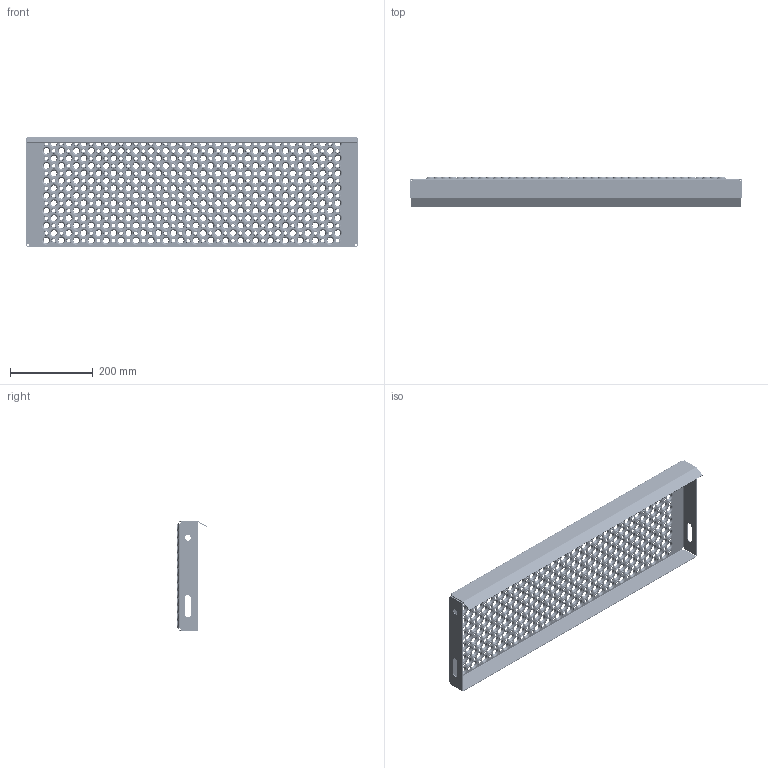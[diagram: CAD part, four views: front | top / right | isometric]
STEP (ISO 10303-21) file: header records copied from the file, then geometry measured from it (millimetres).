
FILE_DESCRIPTION (( 'STEP AP203' ), '1' );
FILE_NAME ('80242608G_Lejdertrin_265x800x45_mm_.STEP', '2015-06-09T04:32:22', ( '' ), ( '' ), 'SwSTEP 2.0', 'SolidWorks 2013', '' );
FILE_SCHEMA (( 'CONFIG_CONTROL_DESIGN' ));
Products named in the file (1): 80242608G_Lejdertrin_265x800x45_mm_
Bounding box: 800 x 71.67 x 265 mm (x, y, z)
Volume: 600354.8 mm3; surface area: 646738.7 mm2
Topology: 1 solids, 1 shells, 2876 faces, 8022 edges, 5148 vertices
Faces by surface type: cone 1680, torus 1120, cylinder 36, plane 32, bspline 8
Full cylindrical faces by diameter (mm): 14 x2
Entity records: 66497 total; most frequent: DIRECTION 12662, CARTESIAN_POINT 10385, ORIENTED_EDGE 7080, EDGE_LOOP 6806, AXIS2_PLACEMENT_3D 6285, FACE_OUTER_BOUND 3998, EDGE_CURVE 3540, VERTEX_POINT 3468
